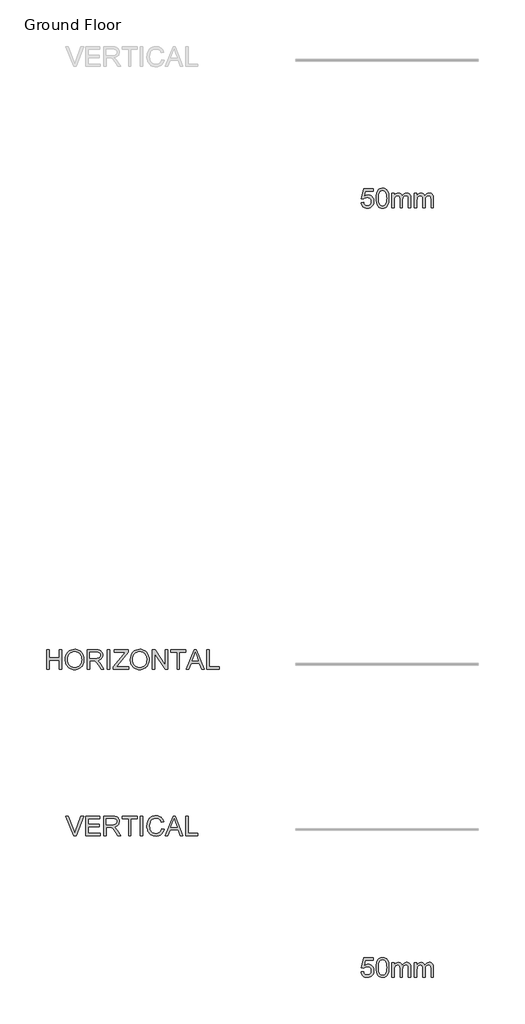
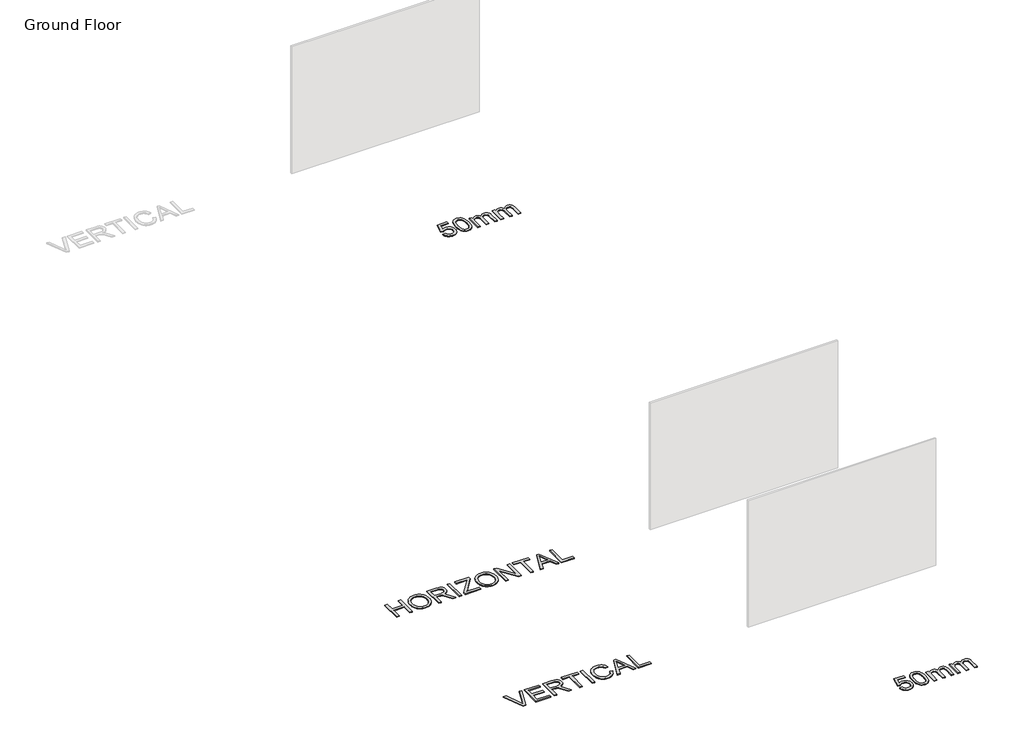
# One storey, part 3 of 14: 4 proxies.
"""IFC4 building model written with IfcOpenShell, lengths in millimetres."""

from ifc_helpers import new_model, si_unit, origin, origin_with_axes, place, context, project, spatial, polyline, outline, extrude, element, save

model = new_model("IFC4")

# Units and contexts
model_context = context("Model", 3, world=origin())
ifc_project = project(units=[si_unit("LENGTHUNIT", "METRE", prefix="MILLI")], contexts=[model_context])

# Site, building, storey
site = spatial("IfcSite", under=ifc_project)
building = spatial("IfcBuilding", under=site)
storey = spatial("IfcBuildingStorey", under=building, Name="Ground Floor", Elevation=0.0)

# Proxies
placement = place(None, origin())
element("IfcBuildingElementProxy", 1, Name="600mm Arial", ObjectType="600mm Arial", at=placement, inside=storey, context=model_context, shape_type="SweptSolid", body=[
    extrude(outline(polyline([(-7004.9680038, -25325.4851257), (-6929.6257712, -25316.0673466), (-6923.9971767, -25340.2877775), (-6915.7934082, -25361.2984379), (-6905.0144657, -25379.099328), (-6891.6603493, -25393.6904476), (-6875.7586501, -25405.0534027), (-6857.3369592, -25413.1697993), (-6836.3952766, -25418.0396372), (-6812.9336023, -25419.6629165), (-6784.2388067, -25417.4050407), (-6758.9285255, -25410.6314135), (-6737.0027585, -25399.3420348), (-6718.461506, -25383.5369045), (-6703.718635, -25363.9977721), (-6693.1880129, -25341.5063866), (-6686.8696396, -25316.0627481), (-6684.7635152, -25287.6668566), (-6686.7362824, -25260.8298651), (-6692.654584, -25236.9727177), (-6702.51842, -25216.0954144), (-6716.3277904, -25198.1979554), (-6734.1286805, -25183.8413605), (-6755.9670754, -25173.5866499), (-6781.8429752, -25167.4338235), (-6811.75638, -25165.3828814), (-6848.3054562, -25168.6570312), (-6877.9015627, -25178.4794804), (-6901.5379809, -25193.525854), (-6920.2079921, -25212.4717768), (-6995.5502248, -25203.0539977), (-6929.6257712, -24892.2672882), (-6637.6746198, -24892.2672882), (-6637.6746198, -24967.6095208), (-6868.7045128, -24967.6095208), (-6900.9309756, -25133.597877), (-6874.3423044, -25114.5415897), (-6847.1098397, -25100.9299559), (-6819.2335815, -25092.7629756), (-6790.7135298, -25090.0406488), (-6754.0218993, -25093.4159661), (-6720.3193101, -25103.541918), (-6689.605762, -25120.4185045), (-6661.8812551, -25144.0457257), (-6638.9300172, -25172.9796446), (-6622.5362757, -25205.7763245), (-6612.7000309, -25242.4357653), (-6609.4212826, -25282.9579671), (-6612.3735356, -25321.9902468), (-6621.2302947, -25358.3001997), (-6635.9915597, -25391.8878258), (-6656.6573308, -25422.7531252), (-6687.9640886, -25454.3633857), (-6724.4947707, -25476.9421431), (-6766.2493772, -25490.4893976), (-6813.2279079, -25495.0051491), (-6852.1084363, -25492.1034798), (-6887.2273713, -25483.3984721), (-6918.5847128, -25468.890126), (-6946.180461, -25448.5784413), (-6969.140896, -25423.4750936), (-6986.5922982, -25394.5917585), (-6998.5346674, -25361.9284359), (-7004.9680038, -25325.4851257)])), origin_with_axes(), (0.0, 0.0, 1.0), 20.0),
    extrude(outline(polyline([(-6543.4968291, -25189.0744819), (-6537.9602051, -25092.5974287), (-6531.039425, -25051.6843523), (-6521.350333, -25015.6549094), (-6508.9343156, -24984.2147944), (-6493.8327597, -24957.0697016), (-6476.0456653, -24934.2196312), (-6455.5730322, -24915.6645831), (-6432.3458828, -24901.3079882), (-6406.295239, -24891.0532776), (-6377.4211009, -24884.9004512), (-6345.7234685, -24882.8495091), (-6299.2967607, -24887.7055514), (-6257.7260952, -24902.2736785), (-6222.9612467, -24925.983673), (-6196.9519896, -24958.2653181), (-6177.3070911, -24998.8427022), (-6161.6353181, -25047.4399138), (-6151.3714104, -25109.1521184), (-6147.9501079, -25189.0744819), (-6153.4315496, -25284.9997121), (-6160.2833518, -25325.7748328), (-6169.8758748, -25361.7582904), (-6182.1953231, -25393.212201), (-6197.2279011, -25420.3986805), (-6214.9736089, -25443.3177288), (-6235.4324463, -25461.9693459), (-6258.6871869, -25476.4225098), (-6284.8206042, -25486.7461983), (-6313.832698, -25492.9404114), (-6345.7234685, -25495.0051491), (-6387.2205575, -25491.4182996), (-6424.008757, -25480.6577513), (-6456.088067, -25462.723504), (-6483.4584875, -25437.6155578), (-6509.7252619, -25392.2281167), (-6528.4872437, -25335.675457), (-6539.7444327, -25267.9575787), (-6543.4968291, -25189.0744819)]), holes=[polyline([(-6468.1545965, -25188.9273291), (-6465.9473045, -25254.4241198), (-6459.3254286, -25307.4405138), (-6448.2889687, -25347.9765112), (-6432.8379249, -25376.0321118), (-6414.1495196, -25395.1205889), (-6393.400975, -25408.7552153), (-6370.5922913, -25416.9359912), (-6345.7234685, -25419.6629165), (-6320.8546456, -25416.9267941), (-6298.0459619, -25408.7184271), (-6277.2974174, -25395.0378154), (-6258.609012, -25375.884959), (-6243.1579682, -25347.7833731), (-6232.1215084, -25307.2565728), (-6225.4996324, -25254.3045582), (-6223.2923405, -25188.9273291), (-6225.426056, -25125.1641823), (-6231.8272028, -25073.0812888), (-6242.4957806, -25032.6786487), (-6257.4317896, -25003.9562619), (-6275.8074953, -24983.9342843), (-6296.7951631, -24969.6328718), (-6320.3947931, -24961.0520242), (-6346.6063853, -24958.1917417), (-6371.3464494, -24960.7117334), (-6393.768857, -24968.2717084), (-6413.8736081, -24980.8716667), (-6431.6607025, -24998.5116084), (-6447.6267811, -25029.781578), (-6459.031123, -25071.9408546), (-6465.8737281, -25124.9894383), (-6468.1545965, -25188.9273291)])]), origin_with_axes(), (0.0, 0.0, 1.0), 20.0),
    extrude(outline(polyline([(-6063.1900962, -25485.58737), (-6063.1900962, -25042.9517534), (-5987.8478636, -25042.9517534), (-5987.8478636, -25115.7923885), (-5965.1863327, -25082.333521), (-5936.0500786, -25056.1219288), (-5901.4323829, -25039.180963), (-5862.3265268, -25033.5339743), (-5820.4247676, -25039.2913276), (-5802.5916878, -25046.4880191), (-5786.8371414, -25056.5633872), (-5761.7475893, -25084.2097192), (-5745.3400523, -25121.0898892), (-5717.8776614, -25082.7841764), (-5686.5525095, -25055.422953), (-5651.3645967, -25039.006219), (-5612.3139229, -25033.5339743), (-5582.1521978, -25035.8102442), (-5555.6784897, -25042.6390537), (-5532.8927987, -25054.0204029), (-5513.7951246, -25069.9542919), (-5498.6981672, -25090.6246615), (-5487.9146262, -25116.2154528), (-5481.4445016, -25146.7266657), (-5479.2877934, -25182.1583004), (-5479.2877934, -25485.58737), (-5554.630026, -25485.58737), (-5554.630026, -25214.531916), (-5556.3774655, -25176.9527702), (-5561.619784, -25151.6240948), (-5571.4422332, -25134.2784587), (-5586.9300652, -25120.6484308), (-5606.8508753, -25111.8192629), (-5629.9722587, -25108.8762069), (-5651.32321, -25110.7616022), (-5670.788766, -25116.4177879), (-5688.3689269, -25125.844764), (-5704.0636925, -25139.0425306), (-5716.971752, -25156.3973637), (-5726.1917945, -25178.2955394), (-5731.72382, -25204.7370578), (-5733.5678285, -25235.7219189), (-5733.5678285, -25485.58737), (-5808.9100611, -25485.58737), (-5808.9100611, -25206.1442065), (-5813.2694628, -25163.5434714), (-5818.7187148, -25146.8232348), (-5826.3476677, -25133.1564186), (-5836.459824, -25122.533826), (-5849.3586865, -25114.9462599), (-5865.044255, -25110.3937202), (-5883.5165297, -25108.8762069), (-5912.5424192, -25112.9229089), (-5939.2874402, -25125.0630147), (-5961.3603599, -25145.0022189), (-5976.3699453, -25172.4462157), (-5984.978384, -25210.5220022), (-5987.8478636, -25262.3565753), (-5987.8478636, -25485.58737), (-6063.1900962, -25485.58737)])), origin_with_axes(), (0.0, 0.0, 1.0), 20.0),
    extrude(outline(polyline([(-5366.2744445, -25485.58737), (-5366.2744445, -25042.9517534), (-5290.9322119, -25042.9517534), (-5290.9322119, -25115.7923885), (-5268.270681, -25082.333521), (-5239.134427, -25056.1219288), (-5204.5167312, -25039.180963), (-5165.4108751, -25033.5339743), (-5123.5091159, -25039.2913276), (-5105.6760362, -25046.4880191), (-5089.9214897, -25056.5633872), (-5064.8319377, -25084.2097192), (-5048.4244007, -25121.0898892), (-5020.9620097, -25082.7841764), (-4989.6368579, -25055.422953), (-4954.448945, -25039.006219), (-4915.3982712, -25033.5339743), (-4885.2365461, -25035.8102442), (-4858.7628381, -25042.6390537), (-4835.977147, -25054.0204029), (-4816.8794729, -25069.9542919), (-4801.7825155, -25090.6246615), (-4790.9989746, -25116.2154528), (-4784.52885, -25146.7266657), (-4782.3721418, -25182.1583004), (-4782.3721418, -25485.58737), (-4857.7143744, -25485.58737), (-4857.7143744, -25214.531916), (-4859.4618139, -25176.9527702), (-4864.7041323, -25151.6240948), (-4874.5265816, -25134.2784587), (-4890.0144136, -25120.6484308), (-4909.9352236, -25111.8192629), (-4933.056607, -25108.8762069), (-4954.4075583, -25110.7616022), (-4973.8731144, -25116.4177879), (-4991.4532752, -25125.844764), (-5007.1480408, -25139.0425306), (-5020.0561003, -25156.3973637), (-5029.2761428, -25178.2955394), (-5034.8081683, -25204.7370578), (-5036.6521768, -25235.7219189), (-5036.6521768, -25485.58737), (-5111.9944094, -25485.58737), (-5111.9944094, -25206.1442065), (-5116.3538111, -25163.5434714), (-5121.8030631, -25146.8232348), (-5129.432016, -25133.1564186), (-5139.5441724, -25122.533826), (-5152.4430348, -25114.9462599), (-5168.1286034, -25110.3937202), (-5186.6008781, -25108.8762069), (-5215.6267675, -25112.9229089), (-5242.3717885, -25125.0630147), (-5264.4447082, -25145.0022189), (-5279.4542937, -25172.4462157), (-5288.0627323, -25210.5220022), (-5290.9322119, -25262.3565753), (-5290.9322119, -25485.58737), (-5366.2744445, -25485.58737)])), origin_with_axes(), (0.0, 0.0, 1.0), 20.0),
])
element("IfcBuildingElementProxy", 2, Name="600mm Arial", ObjectType="600mm Arial", at=placement, inside=storey, context=model_context, shape_type="SweptSolid", body=[
    extrude(outline(polyline([(-7004.9680038, -48925.4851257), (-6929.6257712, -48916.0673466), (-6923.9971767, -48940.2877775), (-6915.7934082, -48961.2984379), (-6905.0144657, -48979.099328), (-6891.6603493, -48993.6904476), (-6875.7586501, -49005.0534027), (-6857.3369592, -49013.1697993), (-6836.3952766, -49018.0396372), (-6812.9336023, -49019.6629165), (-6784.2388067, -49017.4050407), (-6758.9285255, -49010.6314135), (-6737.0027585, -48999.3420348), (-6718.461506, -48983.5369045), (-6703.718635, -48963.9977721), (-6693.1880129, -48941.5063866), (-6686.8696396, -48916.0627481), (-6684.7635152, -48887.6668566), (-6686.7362824, -48860.8298651), (-6692.654584, -48836.9727177), (-6702.51842, -48816.0954144), (-6716.3277904, -48798.1979554), (-6734.1286805, -48783.8413605), (-6755.9670754, -48773.5866499), (-6781.8429752, -48767.4338235), (-6811.75638, -48765.3828814), (-6848.3054562, -48768.6570312), (-6877.9015627, -48778.4794804), (-6901.5379809, -48793.525854), (-6920.2079921, -48812.4717768), (-6995.5502248, -48803.0539977), (-6929.6257712, -48492.2672882), (-6637.6746198, -48492.2672882), (-6637.6746198, -48567.6095208), (-6868.7045128, -48567.6095208), (-6900.9309756, -48733.597877), (-6874.3423044, -48714.5415897), (-6847.1098397, -48700.9299559), (-6819.2335815, -48692.7629756), (-6790.7135298, -48690.0406488), (-6754.0218993, -48693.4159661), (-6720.3193101, -48703.541918), (-6689.605762, -48720.4185045), (-6661.8812551, -48744.0457257), (-6638.9300172, -48772.9796446), (-6622.5362757, -48805.7763245), (-6612.7000309, -48842.4357653), (-6609.4212826, -48882.9579671), (-6612.3735356, -48921.9902468), (-6621.2302947, -48958.3001997), (-6635.9915597, -48991.8878258), (-6656.6573308, -49022.7531252), (-6687.9640886, -49054.3633857), (-6724.4947707, -49076.9421431), (-6766.2493772, -49090.4893976), (-6813.2279079, -49095.0051491), (-6852.1084363, -49092.1034798), (-6887.2273713, -49083.3984721), (-6918.5847128, -49068.890126), (-6946.180461, -49048.5784413), (-6969.140896, -49023.4750936), (-6986.5922982, -48994.5917585), (-6998.5346674, -48961.9284359), (-7004.9680038, -48925.4851257)])), origin_with_axes(), (0.0, 0.0, 1.0), 20.0),
    extrude(outline(polyline([(-6543.4968291, -48789.0744819), (-6537.9602051, -48692.5974287), (-6531.039425, -48651.6843523), (-6521.350333, -48615.6549094), (-6508.9343156, -48584.2147944), (-6493.8327597, -48557.0697016), (-6476.0456653, -48534.2196312), (-6455.5730322, -48515.6645831), (-6432.3458828, -48501.3079882), (-6406.295239, -48491.0532776), (-6377.4211009, -48484.9004512), (-6345.7234685, -48482.8495091), (-6299.2967607, -48487.7055514), (-6257.7260952, -48502.2736785), (-6222.9612467, -48525.983673), (-6196.9519896, -48558.2653181), (-6177.3070911, -48598.8427022), (-6161.6353181, -48647.4399138), (-6151.3714104, -48709.1521184), (-6147.9501079, -48789.0744819), (-6153.4315496, -48884.9997121), (-6160.2833518, -48925.7748328), (-6169.8758748, -48961.7582904), (-6182.1953231, -48993.212201), (-6197.2279011, -49020.3986805), (-6214.9736089, -49043.3177288), (-6235.4324463, -49061.9693459), (-6258.6871869, -49076.4225098), (-6284.8206042, -49086.7461983), (-6313.832698, -49092.9404114), (-6345.7234685, -49095.0051491), (-6387.2205575, -49091.4182996), (-6424.008757, -49080.6577513), (-6456.088067, -49062.723504), (-6483.4584875, -49037.6155578), (-6509.7252619, -48992.2281167), (-6528.4872437, -48935.675457), (-6539.7444327, -48867.9575787), (-6543.4968291, -48789.0744819)]), holes=[polyline([(-6468.1545965, -48788.9273291), (-6465.9473045, -48854.4241198), (-6459.3254286, -48907.4405138), (-6448.2889687, -48947.9765112), (-6432.8379249, -48976.0321118), (-6414.1495196, -48995.1205889), (-6393.400975, -49008.7552153), (-6370.5922913, -49016.9359912), (-6345.7234685, -49019.6629165), (-6320.8546456, -49016.9267941), (-6298.0459619, -49008.7184271), (-6277.2974174, -48995.0378154), (-6258.609012, -48975.884959), (-6243.1579682, -48947.7833731), (-6232.1215084, -48907.2565728), (-6225.4996324, -48854.3045582), (-6223.2923405, -48788.9273291), (-6225.426056, -48725.1641823), (-6231.8272028, -48673.0812888), (-6242.4957806, -48632.6786487), (-6257.4317896, -48603.9562619), (-6275.8074953, -48583.9342843), (-6296.7951631, -48569.6328718), (-6320.3947931, -48561.0520242), (-6346.6063853, -48558.1917417), (-6371.3464494, -48560.7117334), (-6393.768857, -48568.2717084), (-6413.8736081, -48580.8716667), (-6431.6607025, -48598.5116084), (-6447.6267811, -48629.781578), (-6459.031123, -48671.9408546), (-6465.8737281, -48724.9894383), (-6468.1545965, -48788.9273291)])]), origin_with_axes(), (0.0, 0.0, 1.0), 20.0),
    extrude(outline(polyline([(-6063.1900962, -49085.58737), (-6063.1900962, -48642.9517534), (-5987.8478636, -48642.9517534), (-5987.8478636, -48715.7923885), (-5965.1863327, -48682.333521), (-5936.0500786, -48656.1219288), (-5901.4323829, -48639.180963), (-5862.3265268, -48633.5339743), (-5820.4247676, -48639.2913276), (-5802.5916878, -48646.4880191), (-5786.8371414, -48656.5633872), (-5761.7475893, -48684.2097192), (-5745.3400523, -48721.0898892), (-5717.8776614, -48682.7841764), (-5686.5525095, -48655.422953), (-5651.3645967, -48639.006219), (-5612.3139229, -48633.5339743), (-5582.1521978, -48635.8102442), (-5555.6784897, -48642.6390537), (-5532.8927987, -48654.0204029), (-5513.7951246, -48669.9542919), (-5498.6981672, -48690.6246615), (-5487.9146262, -48716.2154528), (-5481.4445016, -48746.7266657), (-5479.2877934, -48782.1583004), (-5479.2877934, -49085.58737), (-5554.630026, -49085.58737), (-5554.630026, -48814.531916), (-5556.3774655, -48776.9527702), (-5561.619784, -48751.6240948), (-5571.4422332, -48734.2784587), (-5586.9300652, -48720.6484308), (-5606.8508753, -48711.8192629), (-5629.9722587, -48708.8762069), (-5651.32321, -48710.7616022), (-5670.788766, -48716.4177879), (-5688.3689269, -48725.844764), (-5704.0636925, -48739.0425306), (-5716.971752, -48756.3973637), (-5726.1917945, -48778.2955394), (-5731.72382, -48804.7370578), (-5733.5678285, -48835.7219189), (-5733.5678285, -49085.58737), (-5808.9100611, -49085.58737), (-5808.9100611, -48806.1442065), (-5813.2694628, -48763.5434714), (-5818.7187148, -48746.8232348), (-5826.3476677, -48733.1564186), (-5836.459824, -48722.533826), (-5849.3586865, -48714.9462599), (-5865.044255, -48710.3937202), (-5883.5165297, -48708.8762069), (-5912.5424192, -48712.9229089), (-5939.2874402, -48725.0630147), (-5961.3603599, -48745.0022189), (-5976.3699453, -48772.4462157), (-5984.978384, -48810.5220022), (-5987.8478636, -48862.3565753), (-5987.8478636, -49085.58737), (-6063.1900962, -49085.58737)])), origin_with_axes(), (0.0, 0.0, 1.0), 20.0),
    extrude(outline(polyline([(-5366.2744445, -49085.58737), (-5366.2744445, -48642.9517534), (-5290.9322119, -48642.9517534), (-5290.9322119, -48715.7923885), (-5268.270681, -48682.333521), (-5239.134427, -48656.1219288), (-5204.5167312, -48639.180963), (-5165.4108751, -48633.5339743), (-5123.5091159, -48639.2913276), (-5105.6760362, -48646.4880191), (-5089.9214897, -48656.5633872), (-5064.8319377, -48684.2097192), (-5048.4244007, -48721.0898892), (-5020.9620097, -48682.7841764), (-4989.6368579, -48655.422953), (-4954.448945, -48639.006219), (-4915.3982712, -48633.5339743), (-4885.2365461, -48635.8102442), (-4858.7628381, -48642.6390537), (-4835.977147, -48654.0204029), (-4816.8794729, -48669.9542919), (-4801.7825155, -48690.6246615), (-4790.9989746, -48716.2154528), (-4784.52885, -48746.7266657), (-4782.3721418, -48782.1583004), (-4782.3721418, -49085.58737), (-4857.7143744, -49085.58737), (-4857.7143744, -48814.531916), (-4859.4618139, -48776.9527702), (-4864.7041323, -48751.6240948), (-4874.5265816, -48734.2784587), (-4890.0144136, -48720.6484308), (-4909.9352236, -48711.8192629), (-4933.056607, -48708.8762069), (-4954.4075583, -48710.7616022), (-4973.8731144, -48716.4177879), (-4991.4532752, -48725.844764), (-5007.1480408, -48739.0425306), (-5020.0561003, -48756.3973637), (-5029.2761428, -48778.2955394), (-5034.8081683, -48804.7370578), (-5036.6521768, -48835.7219189), (-5036.6521768, -49085.58737), (-5111.9944094, -49085.58737), (-5111.9944094, -48806.1442065), (-5116.3538111, -48763.5434714), (-5121.8030631, -48746.8232348), (-5129.432016, -48733.1564186), (-5139.5441724, -48722.533826), (-5152.4430348, -48714.9462599), (-5168.1286034, -48710.3937202), (-5186.6008781, -48708.8762069), (-5215.6267675, -48712.9229089), (-5242.3717885, -48725.0630147), (-5264.4447082, -48745.0022189), (-5279.4542937, -48772.4462157), (-5288.0627323, -48810.5220022), (-5290.9322119, -48862.3565753), (-5290.9322119, -49085.58737), (-5366.2744445, -49085.58737)])), origin_with_axes(), (0.0, 0.0, 1.0), 20.0),
])
element("IfcBuildingElementProxy", 3, Name="600mm Arial", ObjectType="600mm Arial", at=placement, inside=storey, context=model_context, shape_type="SweptSolid", body=[
    extrude(outline(polyline([(-15825.7847773, -44748.0040034), (-16065.6438382, -44145.2661425), (-15985.0041048, -44145.2661425), (-15824.4604021, -44579.5140496), (-15791.9396338, -44677.3706603), (-15759.8603238, -44579.5140496), (-15598.8751627, -44145.2661425), (-15518.2354294, -44145.2661425), (-15747.9409471, -44748.0040034), (-15825.7847773, -44748.0040034)])), origin_with_axes(), (0.0, 0.0, 1.0), 20.0),
    extrude(outline(polyline([(-15448.1906975, -44748.0040034), (-15448.1906975, -44145.2661425), (-15014.97286, -44145.2661425), (-15014.97286, -44220.6083751), (-15372.8484649, -44220.6083751), (-15372.8484649, -44399.5461775), (-15033.8084181, -44399.5461775), (-15033.8084181, -44474.8884102), (-15372.8484649, -44474.8884102), (-15372.8484649, -44672.6617708), (-15005.5550809, -44672.6617708), (-15005.5550809, -44748.0040034), (-15448.1906975, -44748.0040034)])), origin_with_axes(), (0.0, 0.0, 1.0), 20.0),
    extrude(outline(polyline([(-14892.541732, -44748.0040034), (-14892.541732, -44145.2661425), (-14632.8170434, -44145.2661425), (-14563.0114348, -44149.3312385), (-14512.2253253, -44161.5265267), (-14492.6264121, -44171.2202172), (-14475.106032, -44184.0409048), (-14459.6641853, -44199.9885893), (-14446.3008718, -44219.0632707), (-14435.5173308, -44240.2394781), (-14427.8148016, -44262.4917402), (-14423.193284, -44285.8200573), (-14421.6527781, -44310.2244291), (-14424.2049595, -44341.181699), (-14431.8615035, -44369.6005831), (-14444.6224102, -44395.4810815), (-14462.4876796, -44418.8231941), (-14485.6872379, -44438.8819599), (-14514.4510114, -44454.9124178), (-14548.7790001, -44466.9145679), (-14588.6712039, -44474.8884102), (-14563.8391693, -44491.1120061), (-14545.8497397, -44507.1148729), (-14514.9844403, -44543.7191315), (-14484.7813285, -44584.6643975), (-14384.2759674, -44748.0040034), (-14471.8318823, -44748.0040034), (-14550.2643237, -44623.0712778), (-14606.9181509, -44540.3714053), (-14627.9793951, -44516.2567405), (-14646.7229828, -44501.3023374), (-14682.5546891, -44486.9549396), (-14726.2590701, -44484.3061892), (-14817.1994994, -44484.3061892), (-14817.1994994, -44748.0040034), (-14892.541732, -44748.0040034)]), holes=[polyline([(-14817.1994994, -44408.9639566), (-14648.5623928, -44408.9639566), (-14600.1307281, -44406.2968122), (-14562.5515823, -44398.2953788), (-14534.2614569, -44384.4262275), (-14513.6968533, -44364.1559296), (-14501.1704714, -44339.6365946), (-14496.9950107, -44313.0203323), (-14498.986172, -44293.7525128), (-14504.9596559, -44276.268921), (-14514.9154624, -44260.5695568), (-14528.8535915, -44246.6544204), (-14547.09594, -44235.2592755), (-14569.9644045, -44227.1198864), (-14597.4589851, -44222.2362529), (-14629.5796818, -44220.6083751), (-14817.1994994, -44220.6083751), (-14817.1994994, -44408.9639566)])]), origin_with_axes(), (0.0, 0.0, 1.0), 20.0),
    extrude(outline(polyline([(-14139.1194058, -44748.0040034), (-14139.1194058, -44220.6083751), (-14336.8927664, -44220.6083751), (-14336.8927664, -44145.2661425), (-13866.0038126, -44145.2661425), (-13866.0038126, -44220.6083751), (-14063.7771732, -44220.6083751), (-14063.7771732, -44748.0040034), (-14139.1194058, -44748.0040034)])), origin_with_axes(), (0.0, 0.0, 1.0), 20.0),
    extrude(outline(polyline([(-13771.8260219, -44748.0040034), (-13771.8260219, -44145.2661425), (-13696.4837892, -44145.2661425), (-13696.4837892, -44748.0040034), (-13771.8260219, -44748.0040034)])), origin_with_axes(), (0.0, 0.0, 1.0), 20.0),
    extrude(outline(polyline([(-13121.9992656, -44533.7495294), (-13046.657033, -44553.1736987), (-13061.5654508, -44600.0280693), (-13081.4218815, -44640.9687369), (-13106.226325, -44675.9957013), (-13135.9787814, -44705.1089627), (-13170.0078659, -44727.9958214), (-13207.6421941, -44744.3435775), (-13248.8817657, -44754.1522312), (-13293.7265809, -44757.4217825), (-13339.6704436, -44754.947776), (-13381.1169489, -44747.5257568), (-13418.0660968, -44735.1557247), (-13450.5178873, -44717.8376798), (-13478.9183773, -44695.8291394), (-13503.7136238, -44669.387621), (-13524.9036267, -44638.5131246), (-13542.4883861, -44603.2056501), (-13556.2977565, -44564.9919078), (-13566.1615925, -44525.3986081), (-13572.0798941, -44484.4257509), (-13574.0526613, -44442.0733362), (-13571.8223767, -44396.6307127), (-13565.1315229, -44354.1863275), (-13553.9800999, -44314.7401806), (-13538.3681077, -44278.2922719), (-13518.6450343, -44245.4450083), (-13495.1603674, -44216.8007964), (-13467.9141071, -44192.3596364), (-13436.9062534, -44172.1215281), (-13403.1898686, -44156.2520186), (-13367.8180148, -44144.9166546), (-13330.7906919, -44138.1154362), (-13292.1079001, -44135.8483634), (-13249.0151229, -44138.7822223), (-13209.4999981, -44147.583799), (-13173.5625257, -44162.2530936), (-13141.2027057, -44182.790106), (-13112.953967, -44208.6522102), (-13089.3497385, -44239.2967804), (-13070.3900202, -44274.7238166), (-13056.074812, -44314.9333187), (-13131.4170447, -44332.88596), (-13143.281239, -44303.2576638), (-13157.5366663, -44277.942784), (-13174.1833266, -44256.9413206), (-13193.2212198, -44240.2532736), (-13214.7607107, -44227.5383522), (-13238.9121636, -44218.4562654), (-13265.6755788, -44213.0070134), (-13295.0509561, -44211.190596), (-13328.8501144, -44213.2047499), (-13359.7613991, -44219.2472117), (-13387.78481, -44229.3179813), (-13412.9203474, -44243.4170588), (-13434.8507128, -44260.9098477), (-13453.2586081, -44281.1617515), (-13468.1440334, -44304.1727703), (-13479.5069885, -44329.9429041), (-13493.9095686, -44385.0884151), (-13498.7104286, -44441.9261834), (-13493.0266518, -44511.5294569), (-13485.9219308, -44542.7994265), (-13475.9753213, -44571.7149513), (-13463.0258751, -44597.7012157), (-13446.9126437, -44620.1834042), (-13427.6356272, -44639.1615166), (-13405.1948255, -44654.635553), (-13380.680089, -44666.6423016), (-13355.1812682, -44675.2185506), (-13328.6983631, -44680.3643), (-13301.2313736, -44682.0795498), (-13268.4760805, -44679.7434992), (-13238.3419466, -44672.7353472), (-13210.8289718, -44661.0550938), (-13185.9371563, -44644.7027391), (-13164.2551112, -44623.7518595), (-13146.3714478, -44598.2760313), (-13132.2861659, -44568.2752546), (-13121.9992656, -44533.7495294)])), origin_with_axes(), (0.0, 0.0, 1.0), 20.0),
    extrude(outline(polyline([(-13013.2533478, -44748.0040034), (-12772.658523, -44145.2661425), (-12708.499903, -44145.2661425), (-12467.9050782, -44748.0040034), (-12547.5147419, -44748.0040034), (-12616.5294042, -44559.6484218), (-12864.7761745, -44559.6484218), (-12933.643684, -44748.0040034), (-13013.2533478, -44748.0040034)]), holes=[polyline([(-12837.1114485, -44484.3061892), (-12644.0469774, -44484.3061892), (-12698.3463599, -44336.1233216), (-12740.579213, -44220.6083751), (-12778.1031765, -44323.1738753), (-12837.1114485, -44484.3061892)])]), origin_with_axes(), (0.0, 0.0, 1.0), 20.0),
    extrude(outline(polyline([(-12387.4124976, -44748.0040034), (-12387.4124976, -44145.2661425), (-12312.070265, -44145.2661425), (-12312.070265, -44672.6617708), (-12010.7013345, -44672.6617708), (-12010.7013345, -44748.0040034), (-12387.4124976, -44748.0040034)])), origin_with_axes(), (0.0, 0.0, 1.0), 20.0),
])
element("IfcBuildingElementProxy", 4, Name="600mm Arial", ObjectType="600mm Arial", at=placement, inside=storey, context=model_context, shape_type="SweptSolid", body=[
    extrude(outline(polyline([(-16653.6664193, -39643.2040034), (-16653.6664193, -39040.4661425), (-16578.3241867, -39040.4661425), (-16578.3241867, -39285.3283985), (-16258.1196981, -39285.3283985), (-16258.1196981, -39040.4661425), (-16182.7774654, -39040.4661425), (-16182.7774654, -39643.2040034), (-16258.1196981, -39643.2040034), (-16258.1196981, -39360.6706311), (-16578.3241867, -39360.6706311), (-16578.3241867, -39643.2040034), (-16653.6664193, -39643.2040034)])), origin_with_axes(), (0.0, 0.0, 1.0), 20.0),
    extrude(outline(polyline([(-16079.1818956, -39349.781324), (-16074.1603064, -39279.0836016), (-16059.0955387, -39216.4976772), (-16033.9875925, -39162.0235507), (-16017.6674275, -39137.8284118), (-15998.8364679, -39115.6612223), (-15955.7482892, -39078.6430965), (-15906.8291809, -39052.2015781), (-15852.0791429, -39036.3366671), (-15791.4981754, -39031.0483634), (-15750.9483825, -39033.5315669), (-15712.4403346, -39040.9811773), (-15675.9740318, -39053.3971946), (-15641.5494741, -39070.7796189), (-15610.1323518, -39092.6042182), (-15582.6883549, -39118.3467609), (-15559.2174836, -39148.0072467), (-15539.7197379, -39181.5856758), (-15524.3974528, -39218.318693), (-15513.4529634, -39257.4429432), (-15506.8862698, -39298.9584264), (-15504.6973719, -39342.8651425), (-15507.0012329, -39387.3512728), (-15513.9128159, -39429.427776), (-15525.4321209, -39469.0946521), (-15541.5591479, -39506.3519012), (-15561.9122192, -39540.2154388), (-15586.1096575, -39569.7011807), (-15614.1514626, -39594.8091269), (-15646.0376345, -39615.5392773), (-15680.512776, -39631.7628733), (-15716.3214897, -39643.3511562), (-15753.4637756, -39650.3041259), (-15791.9396338, -39652.6217825), (-15833.1975995, -39650.0604041), (-15872.2114851, -39642.3762689), (-15908.9812905, -39629.5693769), (-15943.5070158, -39611.6397282), (-15974.88735, -39589.2816999), (-16002.2209822, -39563.1896694), (-16025.5079125, -39533.3636367), (-16044.7481409, -39499.8036017), (-16059.8129086, -39463.8569322), (-16070.5734569, -39426.8709961), (-16077.0297859, -39388.8457934), (-16079.1818956, -39349.781324)]), holes=[polyline([(-16003.839663, -39350.517088), (-16000.0734711, -39400.4662659), (-15988.7748953, -39444.8052434), (-15969.9439357, -39483.5340204), (-15943.5805922, -39516.652597), (-15911.5334719, -39543.1768889), (-15875.6511818, -39562.1228116), (-15835.9337219, -39573.4903653), (-15792.3810922, -39577.2795498), (-15748.0835014, -39573.4535771), (-15707.896992, -39561.9756588), (-15671.8215638, -39542.8457951), (-15639.857217, -39516.0639858), (-15613.6870115, -39482.2464334), (-15594.9940077, -39442.0093402), (-15583.7782053, -39395.3527062), (-15580.0396046, -39342.2765313), (-15581.6398912, -39307.7967913), (-15586.4407513, -39275.5795256), (-15594.4421847, -39245.6247341), (-15605.6441914, -39217.932417), (-15619.9226114, -39192.8658575), (-15637.1532843, -39170.7883393), (-15657.3362103, -39151.6998622), (-15680.4713892, -39135.6004264), (-15705.8414513, -39122.8211256), (-15732.7290266, -39113.6930536), (-15761.1341152, -39108.2162104), (-15791.056717, -39106.390596), (-15833.096432, -39109.9084676), (-15872.1011205, -39120.4620823), (-15908.0707826, -39138.0514402), (-15941.0054182, -39162.6765413), (-15968.4954003, -39195.5238049), (-15988.1311018, -39237.7796506), (-15999.9125227, -39289.4440783), (-16003.839663, -39350.517088)])]), origin_with_axes(), (0.0, 0.0, 1.0), 20.0),
    extrude(outline(polyline([(-15401.1018021, -39643.2040034), (-15401.1018021, -39040.4661425), (-15141.3771135, -39040.4661425), (-15071.5715049, -39044.5312385), (-15020.7853955, -39056.7265267), (-15001.1864822, -39066.4202172), (-14983.6661022, -39079.2409048), (-14968.2242554, -39095.1885893), (-14954.8609419, -39114.2632707), (-14944.077401, -39135.4394781), (-14936.3748717, -39157.6917402), (-14931.7533541, -39181.0200573), (-14930.2128483, -39205.4244291), (-14932.7650296, -39236.381699), (-14940.4215736, -39264.8005831), (-14953.1824803, -39290.6810815), (-14971.0477497, -39314.0231941), (-14994.2473081, -39334.0819599), (-15023.0110816, -39350.1124178), (-15057.3390702, -39362.1145679), (-15097.2312741, -39370.0884102), (-15072.3992394, -39386.3120061), (-15054.4098098, -39402.3148729), (-15023.5445104, -39438.9191315), (-14993.3413986, -39479.8643975), (-14892.8360376, -39643.2040034), (-14980.3919524, -39643.2040034), (-15058.8243938, -39518.2712778), (-15115.478221, -39435.5714053), (-15136.5394653, -39411.4567405), (-15155.2830529, -39396.5023374), (-15191.1147592, -39382.1549396), (-15234.8191403, -39379.5061892), (-15325.7595695, -39379.5061892), (-15325.7595695, -39643.2040034), (-15401.1018021, -39643.2040034)]), holes=[polyline([(-15325.7595695, -39304.1639566), (-15157.1224629, -39304.1639566), (-15108.6907982, -39301.4968122), (-15071.1116524, -39293.4953788), (-15042.821527, -39279.6262275), (-15022.2569235, -39259.3559296), (-15009.7305415, -39234.8365946), (-15005.5550809, -39208.2203323), (-15007.5462422, -39188.9525128), (-15013.5197261, -39171.468921), (-15023.4755326, -39155.7695568), (-15037.4136617, -39141.8544204), (-15055.6560101, -39130.4592755), (-15078.5244746, -39122.3198864), (-15106.0190552, -39117.4362529), (-15138.1397519, -39115.8083751), (-15325.7595695, -39115.8083751), (-15325.7595695, -39304.1639566)])]), origin_with_axes(), (0.0, 0.0, 1.0), 20.0),
    extrude(outline(polyline([(-14788.9461621, -39643.2040034), (-14788.9461621, -39040.4661425), (-14713.6039295, -39040.4661425), (-14713.6039295, -39643.2040034), (-14788.9461621, -39643.2040034)])), origin_with_axes(), (0.0, 0.0, 1.0), 20.0),
    extrude(outline(polyline([(-14610.0083597, -39643.2040034), (-14610.0083597, -39565.0658676), (-14301.7232477, -39187.6189406), (-14243.1564341, -39115.8083751), (-14572.3372434, -39115.8083751), (-14572.3372434, -39040.4661425), (-14148.5371849, -39040.4661425), (-14148.5371849, -39115.8083751), (-14485.9585509, -39528.8662793), (-14517.7435553, -39567.8617708), (-14139.1194058, -39567.8617708), (-14139.1194058, -39643.2040034), (-14610.0083597, -39643.2040034)])), origin_with_axes(), (0.0, 0.0, 1.0), 20.0),
    extrude(outline(polyline([(-14082.6127314, -39349.781324), (-14077.5911421, -39279.0836016), (-14062.5263744, -39216.4976772), (-14037.4184283, -39162.0235507), (-14021.0982633, -39137.8284118), (-14002.2673036, -39115.6612223), (-13959.179125, -39078.6430965), (-13910.2600166, -39052.2015781), (-13855.5099787, -39036.3366671), (-13794.9290112, -39031.0483634), (-13754.3792182, -39033.5315669), (-13715.8711704, -39040.9811773), (-13679.4048676, -39053.3971946), (-13644.9803099, -39070.7796189), (-13613.5631875, -39092.6042182), (-13586.1191907, -39118.3467609), (-13562.6483194, -39148.0072467), (-13543.1505737, -39181.5856758), (-13527.8282886, -39218.318693), (-13516.8837992, -39257.4429432), (-13510.3171056, -39298.9584264), (-13508.1282077, -39342.8651425), (-13510.4320687, -39387.3512728), (-13517.3436517, -39429.427776), (-13528.8629567, -39469.0946521), (-13544.9899836, -39506.3519012), (-13565.343055, -39540.2154388), (-13589.5404932, -39569.7011807), (-13617.5822983, -39594.8091269), (-13649.4684703, -39615.5392773), (-13683.9436117, -39631.7628733), (-13719.7523254, -39643.3511562), (-13756.8946114, -39650.3041259), (-13795.3704695, -39652.6217825), (-13836.6284353, -39650.0604041), (-13875.6423209, -39642.3762689), (-13912.4121263, -39629.5693769), (-13946.9378516, -39611.6397282), (-13978.3181857, -39589.2816999), (-14005.651818, -39563.1896694), (-14028.9387483, -39533.3636367), (-14048.1789766, -39499.8036017), (-14063.2437443, -39463.8569322), (-14074.0042927, -39426.8709961), (-14080.4606217, -39388.8457934), (-14082.6127314, -39349.781324)]), holes=[polyline([(-14007.2704988, -39350.517088), (-14003.5043068, -39400.4662659), (-13992.2057311, -39444.8052434), (-13973.3747714, -39483.5340204), (-13947.011428, -39516.652597), (-13914.9643077, -39543.1768889), (-13879.0820176, -39562.1228116), (-13839.3645576, -39573.4903653), (-13795.8119279, -39577.2795498), (-13751.5143372, -39573.4535771), (-13711.3278278, -39561.9756588), (-13675.2523996, -39542.8457951), (-13643.2880527, -39516.0639858), (-13617.1178473, -39482.2464334), (-13598.4248434, -39442.0093402), (-13587.2090411, -39395.3527062), (-13583.4704403, -39342.2765313), (-13585.070727, -39307.7967913), (-13589.871587, -39275.5795256), (-13597.8730204, -39245.6247341), (-13609.0750272, -39217.932417), (-13623.3534471, -39192.8658575), (-13640.5841201, -39170.7883393), (-13660.767046, -39151.6998622), (-13683.902225, -39135.6004264), (-13709.2722871, -39122.8211256), (-13736.1598624, -39113.6930536), (-13764.564951, -39108.2162104), (-13794.4875528, -39106.390596), (-13836.5272678, -39109.9084676), (-13875.5319563, -39120.4620823), (-13911.5016184, -39138.0514402), (-13944.436254, -39162.6765413), (-13971.9262361, -39195.5238049), (-13991.5619376, -39237.7796506), (-14003.3433585, -39289.4440783), (-14007.2704988, -39350.517088)])]), origin_with_axes(), (0.0, 0.0, 1.0), 20.0),
    extrude(outline(polyline([(-13404.5326379, -39643.2040034), (-13404.5326379, -39040.4661425), (-13323.8929045, -39040.4661425), (-13008.9859167, -39517.9769722), (-13008.9859167, -39040.4661425), (-12933.643684, -39040.4661425), (-12933.643684, -39643.2040034), (-13014.2834174, -39643.2040034), (-13329.1904053, -39165.5460208), (-13329.1904053, -39643.2040034), (-13404.5326379, -39643.2040034)])), origin_with_axes(), (0.0, 0.0, 1.0), 20.0),
    extrude(outline(polyline([(-12651.1103118, -39643.2040034), (-12651.1103118, -39115.8083751), (-12848.8836724, -39115.8083751), (-12848.8836724, -39040.4661425), (-12377.9947185, -39040.4661425), (-12377.9947185, -39115.8083751), (-12575.7680791, -39115.8083751), (-12575.7680791, -39643.2040034), (-12651.1103118, -39643.2040034)])), origin_with_axes(), (0.0, 0.0, 1.0), 20.0),
    extrude(outline(polyline([(-12363.4265915, -39643.2040034), (-12122.8317667, -39040.4661425), (-12058.6731467, -39040.4661425), (-11818.0783219, -39643.2040034), (-11897.6879856, -39643.2040034), (-11966.7026479, -39454.8484218), (-12214.9494183, -39454.8484218), (-12283.8169278, -39643.2040034), (-12363.4265915, -39643.2040034)]), holes=[polyline([(-12187.2846922, -39379.5061892), (-11994.2202212, -39379.5061892), (-12048.5196037, -39231.3233216), (-12090.7524567, -39115.8083751), (-12128.2764202, -39218.3738753), (-12187.2846922, -39379.5061892)])]), origin_with_axes(), (0.0, 0.0, 1.0), 20.0),
    extrude(outline(polyline([(-11737.5857413, -39643.2040034), (-11737.5857413, -39040.4661425), (-11662.2435087, -39040.4661425), (-11662.2435087, -39567.8617708), (-11360.8745783, -39567.8617708), (-11360.8745783, -39643.2040034), (-11737.5857413, -39643.2040034)])), origin_with_axes(), (0.0, 0.0, 1.0), 20.0),
])

save(model, "model.ifc")
